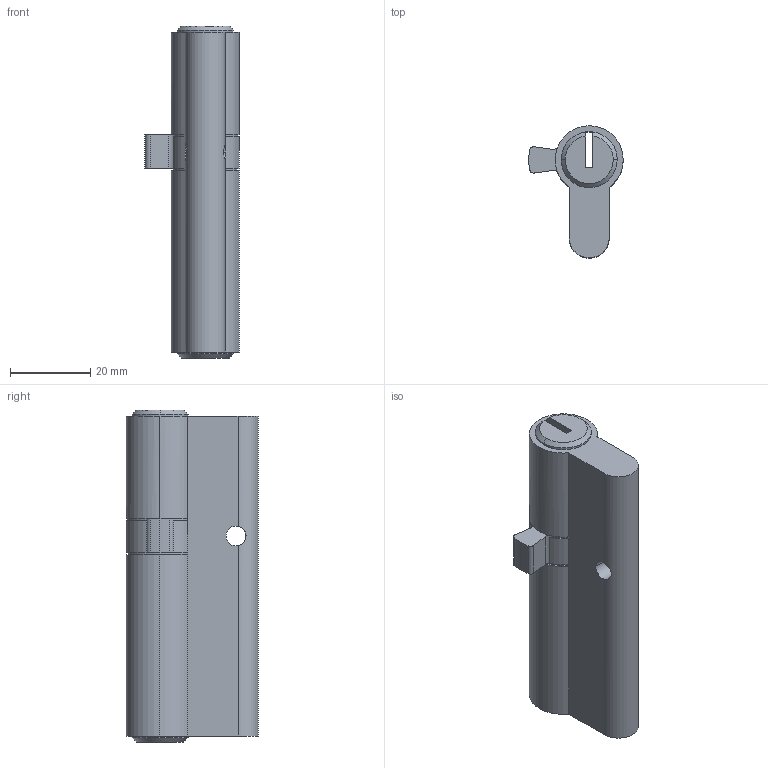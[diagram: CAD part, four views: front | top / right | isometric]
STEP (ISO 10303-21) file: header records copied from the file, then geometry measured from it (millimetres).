
FILE_DESCRIPTION (( 'STEP AP214' ), '1' );
FILE_NAME ('TPL-H-EU-519-R 29Oct2024.STEP', '2024-10-29T22:26:33', ( '' ), ( '' ), 'SwSTEP 2.0', 'SolidWorks 2023', '' );
FILE_SCHEMA (( 'AUTOMOTIVE_DESIGN' ));
Length unit declared in the file: millimetre
Products named in the file (1): TPL-H-EU-519-R 29Oct2024
Bounding box: 23.6 x 33 x 83 mm (x, y, z)
Volume: 29709.2 mm3; surface area: 9685.2 mm2
Topology: 1 solids, 1 shells, 52 faces, 144 edges, 90 vertices
Faces by surface type: cylinder 30, plane 16, cone 6
Entity records: 1775 total; most frequent: CARTESIAN_POINT 363, DIRECTION 314, ORIENTED_EDGE 288, EDGE_CURVE 144, AXIS2_PLACEMENT_3D 125, VERTEX_POINT 90, CIRCLE 72, VECTOR 64
